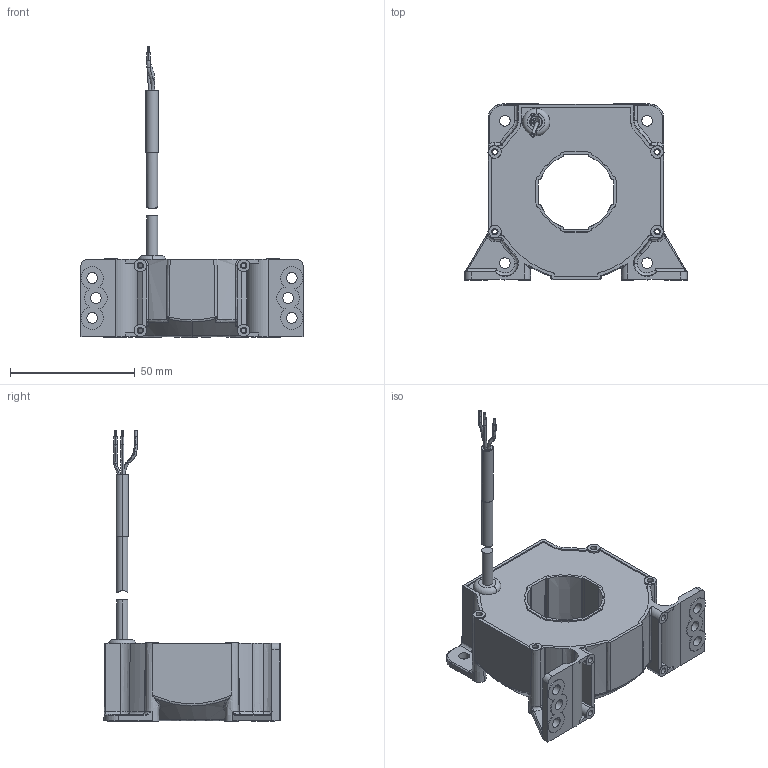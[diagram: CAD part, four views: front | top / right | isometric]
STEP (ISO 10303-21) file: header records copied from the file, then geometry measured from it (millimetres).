
FILE_DESCRIPTION(('CoCreate Modeling STEP Export'),'2;1');
FILE_NAME('LF 505-S_SP23_Blackbox.stp','2009-04-27T14:57:00',(''),(''),'CoCreate Modeling STEP processor for AP214 (Solid Model)','CoCreate Modeling 16.00A 16-Aug-2008 (C) Parametric Technology GmbH','');
FILE_SCHEMA(('AUTOMOTIVE_DESIGN { 1 0 10303 214 1 1 1 1 }'));
Products named in the file (12): boitier_blackbox; cable_dia4.5.1; fil-noir.1.1; fil-rouge.1.1; fil-vert.1.1; gaine-ext.1.1; gaine-noire.1.1; gaine-rouge.1.1; gaine-verte.1.1; gth.1.1.1; passe_fil.1; LF505_SP23_blackbox
Assembly tree (11 placements, depth 2):
  LF505_SP23_blackbox
    passe_fil.1
    gth.1.1.1
    gaine-verte.1.1
    gaine-rouge.1.1
    gaine-noire.1.1
    gaine-ext.1.1
    fil-vert.1.1
    fil-rouge.1.1
    fil-noir.1.1
    cable_dia4.5.1
    boitier_blackbox
Bounding box: 89 x 70.57 x 116.57 mm (x, y, z)
Volume: 105730 mm3; surface area: 29008.3 mm2
Topology: 11 solids, 11 shells, 1154 faces, 3050 edges, 1978 vertices
Faces by surface type: plane 669, cylinder 188, bspline 166, cone 63, extrusion 42, torus 26
Entity records: 59576 total; most frequent: CARTESIAN_POINT 33024, ORIENTED_EDGE 6080, DIRECTION 4367, EDGE_CURVE 3040, VERTEX_POINT 1978, VECTOR 1937, LINE 1895, EDGE_LOOP 1266
